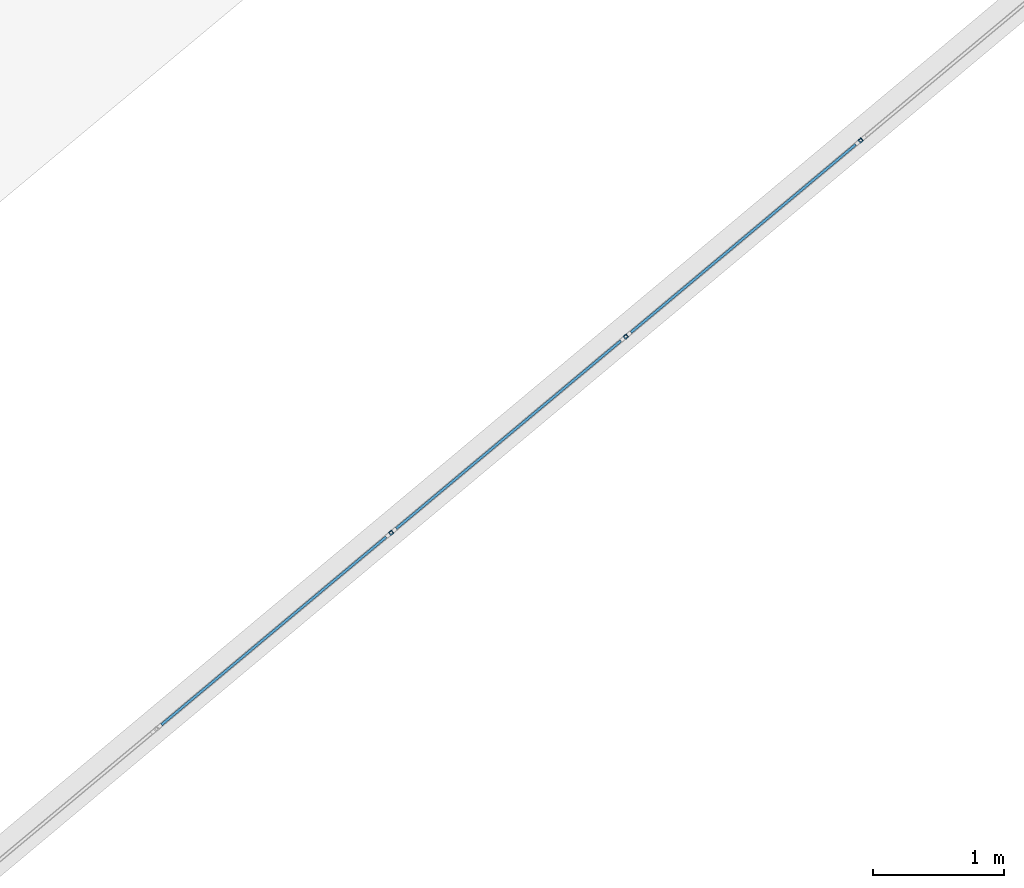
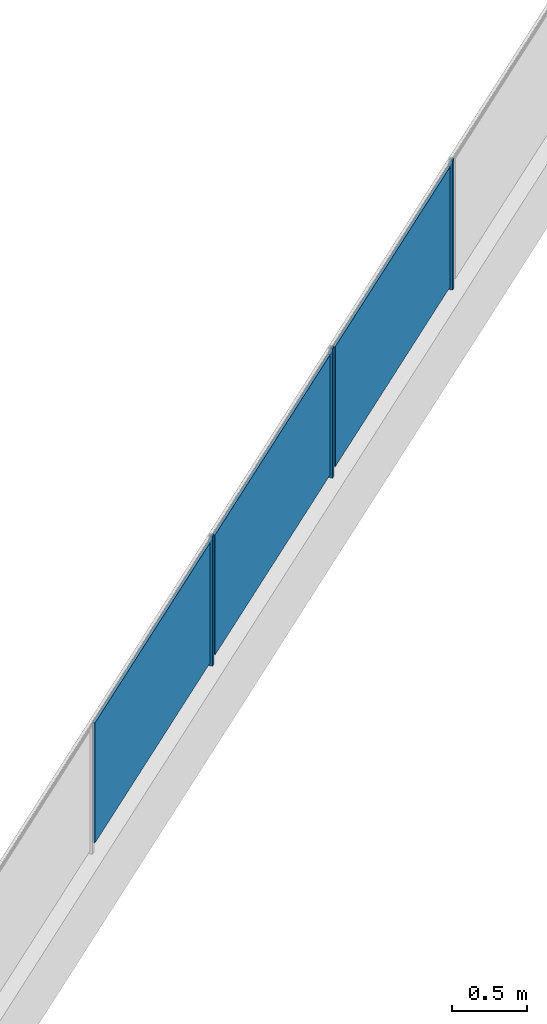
# One storey, part 47 of 75: 6 building element parts, 1 element without a shape of its own.
"""IFC4 building model written with IfcOpenShell, lengths in metres."""

import ifcopenshell
import ifcopenshell.guid

model = None  # the IFC model being written
_history = None  # IfcOwnerHistory: only IFC2X3 demands one
_inside = {}  # id of a spatial element -> (the spatial element, [elements in it])
_under = {}  # id of a project, library or spatial element -> (it, [spatial elements below it])
_declared = {}  # id of a project -> (the project, [libraries it declares])
_typed = {}  # id of a type object -> (the type object, [elements of that type])
_made_of = {}  # id of a material, layer set ... -> (it, [elements and type objects made of it])


def new_model(schema):
    """Start an empty IFC model of exactly this schema.

    Asked for "IFC4X3", IfcOpenShell would pick the latest addendum, in which some entities
    have other attributes; the version numbers below select the first issue.
    IFC2X3 requires an IfcOwnerHistory on every rooted entity: one is made here for all.
    """
    global model, _history
    if schema == "IFC4X3":
        model = ifcopenshell.file(schema_version=(4, 3, 0, 0))
    else:
        model = ifcopenshell.file(schema=schema)
    _inside.clear()
    _under.clear()
    _declared.clear()
    _typed.clear()
    _made_of.clear()
    _history = None
    if model.schema == "IFC2X3":
        org = make("IfcOrganization", Name="unknown")
        user = make(
            "IfcPersonAndOrganization",
            ThePerson=make("IfcPerson", FamilyName="unknown"),
            TheOrganization=org,
        )
        app = make(
            "IfcApplication",
            ApplicationDeveloper=org,
            Version="unknown",
            ApplicationFullName="unknown",
            ApplicationIdentifier="unknown",
        )
        _history = make(
            "IfcOwnerHistory",
            OwningUser=user,
            OwningApplication=app,
            ChangeAction="ADDED",
            CreationDate=0,
        )
    return model


def make(cls, **values):
    """One entity of the class cls with the attributes given. An attribute that is None is left unset."""
    return model.create_entity(
        cls, **{name: value for name, value in values.items() if value is not None}
    )


def entity(cls, *values):
    """Any entity or typed value of the class cls, its attributes in the order of the schema. None: left unset."""
    e = model.create_entity(cls)
    for i, value in enumerate(values):
        if value is not None:
            e[i] = value
    return e


def rooted(cls, **values):
    """An entity with a GlobalId (a new one), such as an element, a storey or a relation."""
    return make(cls, GlobalId=ifcopenshell.guid.new(), OwnerHistory=_history, **values)


def si_unit(unit_type, name, prefix=None):
    """IfcSIUnit, for example si_unit("LENGTHUNIT", "METRE", prefix="MILLI")."""
    return make("IfcSIUnit", UnitType=unit_type, Prefix=prefix, Name=name)


def converted_unit(unit_type, name, factor, base, dimensions=None, offset=None):
    """IfcConversionBasedUnit, such as the inch: factor (a typed value) times the base unit."""
    return make(
        "IfcConversionBasedUnit"
        if offset is None
        else "IfcConversionBasedUnitWithOffset",
        ConversionOffset=offset,
        Dimensions=None
        if dimensions is None
        else entity("IfcDimensionalExponents", *dimensions),
        UnitType=unit_type,
        Name=name,
        ConversionFactor=make(
            "IfcMeasureWithUnit", ValueComponent=factor, UnitComponent=base
        ),
    )


def derived_unit(unit_type, elements):
    """IfcDerivedUnit: a product of units, each with its exponent."""
    return make(
        "IfcDerivedUnit",
        Elements=[
            make("IfcDerivedUnitElement", Unit=unit, Exponent=power)
            for unit, power in elements
        ],
        UnitType=unit_type,
    )


def assignment(units):
    """IfcUnitAssignment: the units of a project."""
    return None if units is None else make("IfcUnitAssignment", Units=units)


def point(xyz):
    """IfcCartesianPoint."""
    return None if xyz is None else make("IfcCartesianPoint", Coordinates=xyz)


def direction(xyz):
    """IfcDirection."""
    return None if xyz is None else make("IfcDirection", DirectionRatios=xyz)


def frame(location, z_axis=None, x_axis=None):
    """IfcAxis2Placement3D, a coordinate frame: its origin and axes. An axis left out is left unset."""
    return make(
        "IfcAxis2Placement3D",
        Location=point(location),
        Axis=direction(z_axis),
        RefDirection=direction(x_axis),
    )


def origin_with_axes():
    """The frame at (0, 0, 0) with the z axis (0, 0, 1) and the x axis (1, 0, 0) written out."""
    return frame((0.0, 0.0, 0.0), z_axis=(0.0, 0.0, 1.0), x_axis=(1.0, 0.0, 0.0))


def place(relative_to, where):
    """IfcLocalPlacement: puts the frame where relative to a parent placement (None: the world)."""
    return make(
        "IfcLocalPlacement", PlacementRelTo=relative_to, RelativePlacement=where
    )


def context(
    kind, dimensions, precision=None, world=None, true_north=None, identifier=None
):
    """IfcGeometricRepresentationContext, for example the 3D "Model" context."""
    return make(
        "IfcGeometricRepresentationContext",
        ContextIdentifier=identifier,
        ContextType=kind,
        CoordinateSpaceDimension=dimensions,
        Precision=precision,
        WorldCoordinateSystem=world,
        TrueNorth=true_north,
    )


def subcontext(parent, identifier, kind, view, scale=None):
    """IfcGeometricRepresentationSubContext, for example "Body" below "Model"."""
    return make(
        "IfcGeometricRepresentationSubContext",
        ContextIdentifier=identifier,
        ContextType=kind,
        ParentContext=parent,
        TargetScale=scale,
        TargetView=view,
    )


def project(units=None, contexts=None):
    """IfcProject with its units and contexts."""
    return rooted(
        "IfcProject",
        Name="project",
        RepresentationContexts=contexts,
        UnitsInContext=assignment(units),
    )


def spatial(cls, under=None, at=None, **own):
    """A site, building, storey or space (cls), placed at a placement, below another one or the project."""
    s = rooted(cls, ObjectPlacement=at, **own)
    if under is not None:
        _under.setdefault(under.id(), (under, []))[1].append(s)
    return s


def point_list(points):
    """IfcCartesianPointList2D or 3D."""
    cls = (
        "IfcCartesianPointList2D" if len(points[0]) == 2 else "IfcCartesianPointList3D"
    )
    return make(cls, CoordList=points)


def polygons(points, faces, closed=None, point_numbers=None):
    """IfcPolygonalFaceSet: a face is its outer loop, then its inner loops; points numbered from 1."""
    made = []
    for loops in faces:
        if len(loops) == 1:
            made.append(make("IfcIndexedPolygonalFace", CoordIndex=loops[0]))
        else:
            made.append(
                make(
                    "IfcIndexedPolygonalFaceWithVoids",
                    CoordIndex=loops[0],
                    InnerCoordIndices=loops[1:],
                )
            )
    return make(
        "IfcPolygonalFaceSet",
        Coordinates=point_list(points),
        Closed=closed,
        Faces=made,
        PnIndex=point_numbers,
    )


def shape(context_of_items, identifier, shape_type, items):
    """IfcShapeRepresentation: the items that make up one representation, for example the "Body"."""
    return make(
        "IfcShapeRepresentation",
        ContextOfItems=context_of_items,
        RepresentationIdentifier=identifier,
        RepresentationType=shape_type,
        Items=items,
    )


def material(Name=None, Category=None):
    """IfcMaterial."""
    return make("IfcMaterial", Name=Name, Category=Category)


def made_of(thing, what):
    """Note that an element or type object is made of a material, layer set ...; save() writes the relation."""
    if what is not None:
        _made_of.setdefault(what.id(), (what, []))[1].append(thing)
    return thing


def type_object(cls, material=None, **own):
    """A type object (cls), such as IfcWallType, which elements share."""
    return made_of(rooted(cls, **own), material)


def element(
    cls,
    number,
    at=None,
    inside=None,
    cuts=None,
    type_object=None,
    material=None,
    context=None,
    identifier="Body",
    shape_type=None,
    held_by="IfcProductDefinitionShape",
    body=None,
    shapes=None,
    **own,
):
    """One element of the class cls, such as IfcWall. Its Tag is "e" and its number.

    at: its placement. inside: the storey or other place that contains it. cuts: it is an
    opening in that element (IfcRelVoidsElement). A single representation is given by context,
    identifier, shape_type and body (its items); several are given by shapes. held_by: the class
    of the entity that holds the representations. save() writes the other relations.
    """
    e = rooted(cls, Tag="e%d" % number, ObjectPlacement=at, **own)
    if body is not None:
        shapes = [shape(context, identifier, shape_type, body)]
    if shapes is not None:
        e.Representation = make(held_by, Representations=shapes)
    if inside is not None:
        _inside.setdefault(inside.id(), (inside, []))[1].append(e)
    if cuts is not None:
        rooted(
            "IfcRelVoidsElement", RelatingBuildingElement=cuts, RelatedOpeningElement=e
        )
    if type_object is not None:
        _typed.setdefault(type_object.id(), (type_object, []))[1].append(e)
    return made_of(e, material)


def aggregate(whole, parts):
    """IfcRelAggregates: a whole, such as a stair, and the parts it consists of."""
    return rooted("IfcRelAggregates", RelatingObject=whole, RelatedObjects=parts)


def save(model, path):
    """Write the relations noted so far, then the file.

    IfcRelAggregates (storeys below a building ...), IfcRelContainedInSpatialStructure (elements
    in a storey), IfcRelDefinesByType, IfcRelAssociatesMaterial and IfcRelDeclares: one each for
    every whole, place, type object, material and project.
    """
    for whole, parts in _under.values():
        aggregate(whole, parts)
    for where, things in _inside.values():
        rooted(
            "IfcRelContainedInSpatialStructure",
            RelatedElements=things,
            RelatingStructure=where,
        )
    for kind, things in _typed.values():
        rooted("IfcRelDefinesByType", RelatedObjects=things, RelatingType=kind)
    for what, things in _made_of.values():
        rooted("IfcRelAssociatesMaterial", RelatedObjects=things, RelatingMaterial=what)
    for by, libraries in _declared.values():
        rooted("IfcRelDeclares", RelatingContext=by, RelatedDefinitions=libraries)
    model.write(path)


model = new_model("IFC4")

# Units and contexts
model_context = context("Model", 3, precision=1e-05, world=origin_with_axes(), true_north=direction((0.0, 1.0)))
body_context = subcontext(model_context, "Body", "Model", "MODEL_VIEW")
ifc_project = project(units=[si_unit("LENGTHUNIT", "METRE"), si_unit("AREAUNIT", "SQUARE_METRE"), si_unit("VOLUMEUNIT", "CUBIC_METRE"), converted_unit("PLANEANGLEUNIT", "DEGREE", entity("IfcPlaneAngleMeasure", 0.0174532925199), si_unit("PLANEANGLEUNIT", "RADIAN"), dimensions=[0, 0, 0, 0, 0, 0, 0]), converted_unit("TIMEUNIT", "Year", entity("IfcTimeMeasure", 31556926.0), si_unit("TIMEUNIT", "SECOND"), dimensions=[0, 0, 1, 0, 0, 0, 0]), si_unit("MASSUNIT", "GRAM", prefix="KILO"), si_unit("THERMODYNAMICTEMPERATUREUNIT", "DEGREE_CELSIUS"), si_unit("LUMINOUSINTENSITYUNIT", "LUMEN"), si_unit("ENERGYUNIT", "JOULE", prefix="MEGA"), derived_unit("THERMALCONDUCTANCEUNIT", [(si_unit("POWERUNIT", "WATT"), 1), (si_unit("LENGTHUNIT", "METRE"), -1), (si_unit("THERMODYNAMICTEMPERATUREUNIT", "KELVIN"), -1)]), derived_unit("SPECIFICHEATCAPACITYUNIT", [(si_unit("ENERGYUNIT", "JOULE"), 1), (si_unit("MASSUNIT", "GRAM", prefix="KILO"), -1), (si_unit("THERMODYNAMICTEMPERATUREUNIT", "KELVIN"), -1)]), derived_unit("MASSDENSITYUNIT", [(si_unit("MASSUNIT", "GRAM", prefix="KILO"), 1), (si_unit("VOLUMEUNIT", "CUBIC_METRE"), -1)])], contexts=[model_context])

# Site, building, storey
site_placement = place(None, frame((-0.00153261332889, -0.00661245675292, 0.0), z_axis=(0.0, 0.0, 1.0), x_axis=(1.0, 0.0, 0.0)))
site = spatial("IfcSite", under=ifc_project, at=site_placement, Name="Gelände", CompositionType="ELEMENT")
building_placement = place(site_placement, origin_with_axes())
building = spatial("IfcBuilding", under=site, at=building_placement, Name="Gebäude", CompositionType="ELEMENT")
storey_placement = place(building_placement, frame((0.0, 0.0, -0.22), z_axis=(0.0, 0.0, 1.0), x_axis=(1.0, 0.0, 0.0)))
storey = spatial("IfcBuildingStorey", under=building, at=storey_placement, Name="EG", CompositionType="ELEMENT", Elevation=-0.22)

# Railing, building element parts
railing_type = type_object("IfcRailingType", Name="Geländerart", PredefinedType="NOTDEFINED")
railing_placement = place(storey_placement, frame((-12.1608341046, 23.557810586, 0.523948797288), z_axis=(0.0, 0.0, 1.0), x_axis=(1.0, 0.0, 0.0)))
railing = element("IfcRailing", 1, at=railing_placement, inside=storey, type_object=railing_type, Name="Geländer - 001", PredefinedType="NOTDEFINED")
ifc_material_1 = material(Name="Zaun")
building_element_part_1_placement = place(railing_placement, origin_with_axes())
building_element_part_1 = element("IfcBuildingElementPart", 2, at=building_element_part_1_placement, material=ifc_material_1, Name="Zaun", PredefinedType="NOTDEFINED", context=body_context, shape_type="Tessellation", body=[
    polygons([(26.4582652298, -11.4602112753, 0.05), (24.7440848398, -12.8928174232, 0.05), (24.7440848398, -12.8928174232, 1.03), (26.4582652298, -11.4602112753, 1.03), (24.756910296, -12.9081636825, 0.05), (26.4710906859, -11.4755575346, 0.05), (24.756910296, -12.9081636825, 1.03), (26.4710906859, -11.4755575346, 1.03)], [[[1, 2, 3, 4]], [[5, 2, 1, 6]], [[7, 3, 2, 5]], [[4, 3, 7, 8]], [[1, 4, 8, 6]], [[7, 5, 6, 8]]], closed=True),
])
ifc_material_2 = material(Name="Aluminium")
building_element_part_2_placement = place(railing_placement, origin_with_axes())
building_element_part_2 = element("IfcBuildingElementPart", 3, at=building_element_part_2_placement, material=ifc_material_2, Name="Aluminium", PredefinedType="NOTDEFINED", context=body_context, shape_type="Tessellation", body=[
    polygons([(26.5241723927, -11.437711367, 0.0), (26.5049342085, -11.414691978, 0.0), (26.5049342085, -11.414691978, 1.06), (26.5241723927, -11.437711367, 1.06), (26.5011530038, -11.4569495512, 0.0), (26.4819148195, -11.4339301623, 0.0), (26.5171294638, -11.4370811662, 0.0), (26.5043040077, -11.4217349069, 0.0), (26.4889577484, -11.434560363, 0.0), (26.5017832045, -11.4499066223, 0.0), (26.4819148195, -11.4339301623, 1.06), (26.5011530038, -11.4569495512, 1.06), (26.5171294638, -11.4370811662, 1.06), (26.5017832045, -11.4499066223, 1.06), (26.4889577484, -11.434560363, 1.06), (26.5043040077, -11.4217349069, 1.06)], [[[1, 2, 3, 4]], [[1, 5, 6, 2], [7, 8, 9, 10]], [[2, 6, 11, 3]], [[4, 3, 11, 12], [13, 14, 15, 16]], [[5, 1, 4, 12]], [[6, 5, 12, 11]], [[8, 7, 13, 16]], [[9, 8, 16, 15]], [[10, 9, 15, 14]], [[7, 10, 14, 13]]], closed=True),
])
building_element_part_3_placement = place(railing_placement, origin_with_axes())
building_element_part_3 = element("IfcBuildingElementPart", 4, at=building_element_part_3_placement, material=ifc_material_1, Name="Zaun", PredefinedType="NOTDEFINED", context=body_context, shape_type="Tessellation", body=[
    polygons([(28.2491769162, -9.96347784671, 0.05), (26.5349965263, -11.3960839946, 0.05), (26.5349965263, -11.3960839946, 1.03), (28.2491769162, -9.96347784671, 1.03), (26.5478219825, -11.4114302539, 0.05), (28.2620023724, -9.97882410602, 0.05), (26.5478219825, -11.4114302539, 1.03), (28.2620023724, -9.97882410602, 1.03)], [[[1, 2, 3, 4]], [[5, 2, 1, 6]], [[7, 3, 2, 5]], [[4, 3, 7, 8]], [[1, 4, 8, 6]], [[7, 5, 6, 8]]], closed=True),
])
building_element_part_4_placement = place(railing_placement, origin_with_axes())
building_element_part_4 = element("IfcBuildingElementPart", 5, at=building_element_part_4_placement, material=ifc_material_2, Name="Aluminium", PredefinedType="NOTDEFINED", context=body_context, shape_type="Tessellation", body=[
    polygons([(28.3150840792, -9.94097793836, 0.0), (28.2958458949, -9.9179585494, 0.0), (28.2958458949, -9.9179585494, 1.06), (28.3150840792, -9.94097793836, 1.06), (28.2920646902, -9.96021612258, 0.0), (28.272826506, -9.93719673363, 0.0), (28.3080411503, -9.94034773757, 0.0), (28.2952156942, -9.92500147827, 0.0), (28.2798694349, -9.93782693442, 0.0), (28.292694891, -9.95317319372, 0.0), (28.272826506, -9.93719673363, 1.06), (28.2920646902, -9.96021612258, 1.06), (28.3080411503, -9.94034773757, 1.06), (28.292694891, -9.95317319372, 1.06), (28.2798694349, -9.93782693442, 1.06), (28.2952156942, -9.92500147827, 1.06)], [[[1, 2, 3, 4]], [[1, 5, 6, 2], [7, 8, 9, 10]], [[2, 6, 11, 3]], [[4, 3, 11, 12], [13, 14, 15, 16]], [[5, 1, 4, 12]], [[6, 5, 12, 11]], [[8, 7, 13, 16]], [[9, 8, 16, 15]], [[10, 9, 15, 14]], [[7, 10, 14, 13]]], closed=True),
])
building_element_part_5_placement = place(railing_placement, origin_with_axes())
building_element_part_5 = element("IfcBuildingElementPart", 6, at=building_element_part_5_placement, material=ifc_material_1, Name="Zaun", PredefinedType="NOTDEFINED", context=body_context, shape_type="Tessellation", body=[
    polygons([(30.0400886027, -8.46674441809, 0.05), (28.3259082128, -9.89935056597, 0.05), (28.3259082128, -9.89935056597, 1.03), (30.0400886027, -8.46674441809, 1.03), (28.3387336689, -9.91469682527, 0.05), (30.0529140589, -8.48209067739, 0.05), (28.3387336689, -9.91469682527, 1.03), (30.0529140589, -8.48209067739, 1.03)], [[[1, 2, 3, 4]], [[5, 2, 1, 6]], [[7, 3, 2, 5]], [[4, 3, 7, 8]], [[1, 4, 8, 6]], [[7, 5, 6, 8]]], closed=True),
])
building_element_part_6_placement = place(railing_placement, origin_with_axes())
building_element_part_6 = element("IfcBuildingElementPart", 7, at=building_element_part_6_placement, material=ifc_material_2, Name="Aluminium", PredefinedType="NOTDEFINED", context=body_context, shape_type="Tessellation", body=[
    polygons([(30.1059957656, -8.44424450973, 0.0), (30.0867575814, -8.42122512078, 0.0), (30.0867575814, -8.42122512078, 1.06), (30.1059957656, -8.44424450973, 1.06), (30.0829763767, -8.46348269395, 0.0), (30.0637381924, -8.440463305, 0.0), (30.0989528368, -8.44361430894, 0.0), (30.0861273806, -8.42826804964, 0.0), (30.0707811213, -8.44109350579, 0.0), (30.0836065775, -8.45643976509, 0.0), (30.0637381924, -8.440463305, 1.06), (30.0829763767, -8.46348269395, 1.06), (30.0989528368, -8.44361430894, 1.06), (30.0836065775, -8.45643976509, 1.06), (30.0707811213, -8.44109350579, 1.06), (30.0861273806, -8.42826804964, 1.06)], [[[1, 2, 3, 4]], [[1, 5, 6, 2], [7, 8, 9, 10]], [[2, 6, 11, 3]], [[4, 3, 11, 12], [13, 14, 15, 16]], [[5, 1, 4, 12]], [[6, 5, 12, 11]], [[8, 7, 13, 16]], [[9, 8, 16, 15]], [[10, 9, 15, 14]], [[7, 10, 14, 13]]], closed=True),
])
aggregate(railing, [building_element_part_1, building_element_part_2, building_element_part_3, building_element_part_4, building_element_part_5, building_element_part_6])

save(model, "model.ifc")
